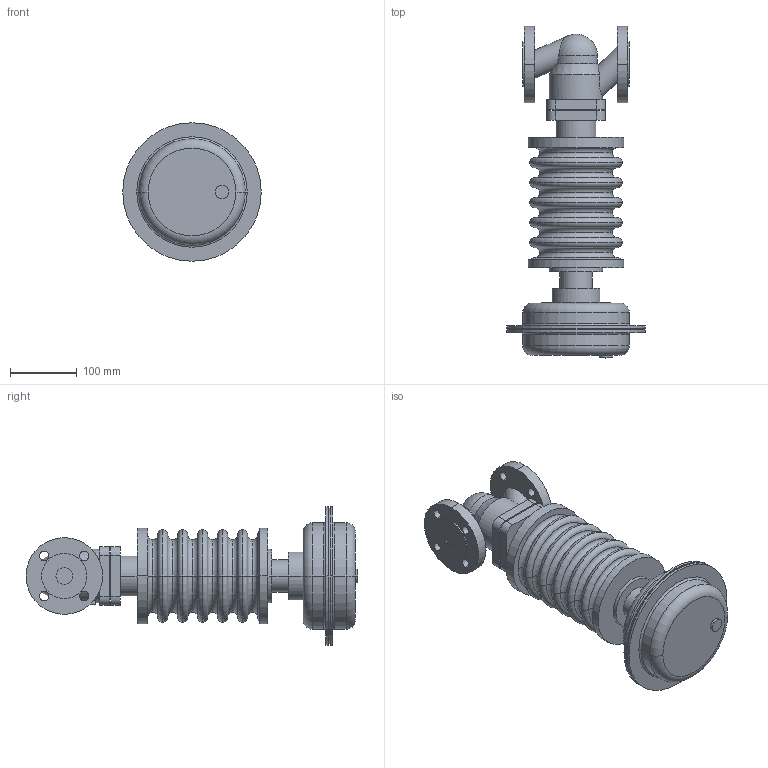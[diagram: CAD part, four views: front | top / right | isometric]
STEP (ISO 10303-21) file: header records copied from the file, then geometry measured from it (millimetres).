
FILE_DESCRIPTION(('OneSpaceDesigner STEP Export'),'2;1');
FILE_NAME('c000000568.stp','2006-08-30T 9:45:54',(''),(''),'OneSpace Designer STEP processor for AP203 (Solid Model)','OneSpace Designer 13.20A 18-Aug-2005 (C) CoCreate Software GmbH','');
FILE_SCHEMA(('CONFIG_CONTROL_DESIGN'));
Length unit declared in the file: millimetre
Products named in the file (1): 2
Bounding box: 208 x 498.5 x 208 mm (x, y, z)
Volume: 5393083.2 mm3; surface area: 375142.8 mm2
Topology: 1 solids, 1 shells, 176 faces, 411 edges, 260 vertices
Faces by surface type: cylinder 70, torus 54, plane 48, cone 2, sphere 2
Entity records: 4527 total; most frequent: CARTESIAN_POINT 874, ORIENTED_EDGE 818, DIRECTION 665, EDGE_CURVE 409, AXIS2_PLACEMENT_3D 268, VERTEX_POINT 260, EDGE_LOOP 217, FACE_OUTER_BOUND 176
